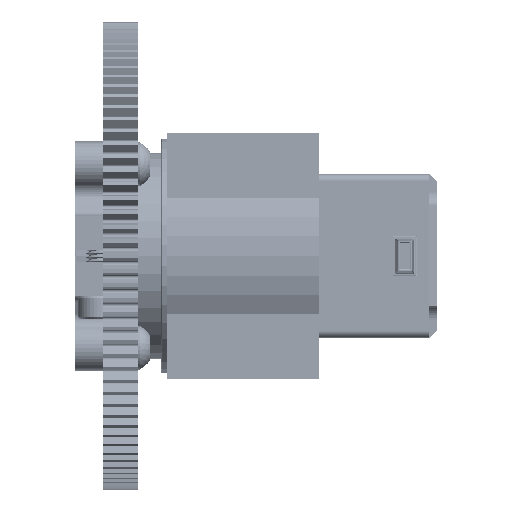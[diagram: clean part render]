
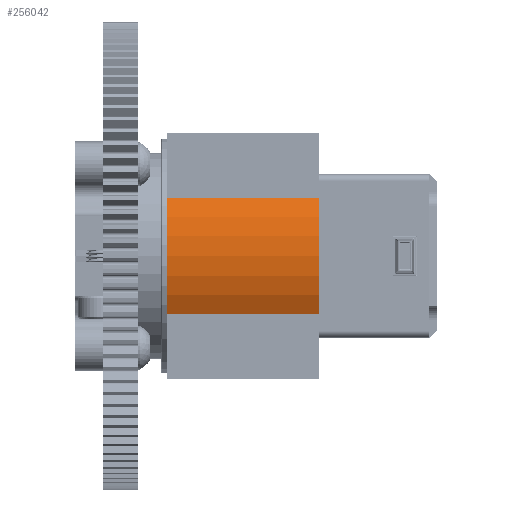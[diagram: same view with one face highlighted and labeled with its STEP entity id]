
A CAD part, left-side view. The second image highlights one B-rep face of the part: STEP entity #256042.
In plain terms, the highlighted cylindrical face has radius 21.5 mm (diameter 43 mm), a partial arc.
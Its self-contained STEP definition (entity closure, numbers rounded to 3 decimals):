
#1270 = LINE ( 'NONE', #213848, #49367 ) ;
#8574 = DIRECTION ( 'NONE',  ( 0., -1., 0. ) ) ;
#35134 = CARTESIAN_POINT ( 'NONE',  ( -19., 45.5, 10.062 ) ) ;
#43013 = CARTESIAN_POINT ( 'NONE',  ( -19.817, 45.5, 8.52 ) ) ;
#48809 = VERTEX_POINT ( 'NONE', #173928 ) ;
#48951 = EDGE_CURVE ( 'NONE', #48809, #253451, #87478, .T. ) ;
#49367 = VECTOR ( 'NONE', #8574, 1000. ) ;
#51185 = ORIENTED_EDGE ( 'NONE', *, *, #219640, .F. ) ;
#58631 = VERTEX_POINT ( 'NONE', #185365 ) ;
#64143 = CARTESIAN_POINT ( 'NONE',  ( -19., 18.9, -10.062 ) ) ;
#67953 = CARTESIAN_POINT ( 'NONE',  ( -21.286, 45.5, -3.49 ) ) ;
#69333 = VERTEX_POINT ( 'NONE', #35134 ) ;
#70679 = VECTOR ( 'NONE', #229951, 1000. ) ;
#87478 = CIRCLE ( 'NONE', #191788, 21.5 ) ;
#92022 = B_SPLINE_CURVE_WITH_KNOTS ( 'NONE', 3,
 ( #167509, #43013, #210469, #252640, #128094, #250877, #67953, #128986, #190779, #191672 ),
 .UNSPECIFIED., .F., .F.,
 ( 4, 2, 2, 2, 4 ),
 ( 0., 0.25, 0.5, 0.75, 1. ),
 .UNSPECIFIED. ) ;
#106507 = DIRECTION ( 'NONE',  ( 0., -1., 0. ) ) ;
#122424 = EDGE_CURVE ( 'NONE', #69333, #48809, #1270, .T. ) ;
#127870 = CARTESIAN_POINT ( 'NONE',  ( -19., 18.9, -10.062 ) ) ;
#128094 = CARTESIAN_POINT ( 'NONE',  ( -21.5, 45.5, 1.745 ) ) ;
#128986 = CARTESIAN_POINT ( 'NONE',  ( -20.445, 45.5, -6.878 ) ) ;
#144770 = ORIENTED_EDGE ( 'NONE', *, *, #122424, .F. ) ;
#156199 = CYLINDRICAL_SURFACE ( 'NONE', #161125, 21.5 ) ;
#161125 = AXIS2_PLACEMENT_3D ( 'NONE', #265442, #203617, #163323 ) ;
#163323 = DIRECTION ( 'NONE',  ( 0., 0., 1. ) ) ;
#167509 = CARTESIAN_POINT ( 'NONE',  ( -19., 45.5, 10.062 ) ) ;
#173928 = CARTESIAN_POINT ( 'NONE',  ( -19., 18.9, 10.062 ) ) ;
#184394 = EDGE_LOOP ( 'NONE', ( #227340, #51185, #213949, #144770 ) ) ;
#185365 = CARTESIAN_POINT ( 'NONE',  ( -19., 45.5, -10.062 ) ) ;
#188059 = CARTESIAN_POINT ( 'NONE',  ( 0., 18.9, 0. ) ) ;
#190779 = CARTESIAN_POINT ( 'NONE',  ( -19.817, 45.5, -8.52 ) ) ;
#191672 = CARTESIAN_POINT ( 'NONE',  ( -19., 45.5, -10.062 ) ) ;
#191788 = AXIS2_PLACEMENT_3D ( 'NONE', #188059, #106507, #250789 ) ;
#203617 = DIRECTION ( 'NONE',  ( 0., 1., 0. ) ) ;
#210469 = CARTESIAN_POINT ( 'NONE',  ( -20.445, 45.5, 6.878 ) ) ;
#213848 = CARTESIAN_POINT ( 'NONE',  ( -19., 45.5, 10.062 ) ) ;
#213949 = ORIENTED_EDGE ( 'NONE', *, *, #48951, .F. ) ;
#218303 = LINE ( 'NONE', #64143, #70679 ) ;
#219640 = EDGE_CURVE ( 'NONE', #253451, #58631, #218303, .T. ) ;
#227340 = ORIENTED_EDGE ( 'NONE', *, *, #250710, .T. ) ;
#229951 = DIRECTION ( 'NONE',  ( 0., 1., 0. ) ) ;
#250710 = EDGE_CURVE ( 'NONE', #69333, #58631, #92022, .T. ) ;
#250789 = DIRECTION ( 'NONE',  ( 0., 0., 1. ) ) ;
#250877 = CARTESIAN_POINT ( 'NONE',  ( -21.5, 45.5, -1.745 ) ) ;
#252640 = CARTESIAN_POINT ( 'NONE',  ( -21.286, 45.5, 3.49 ) ) ;
#253451 = VERTEX_POINT ( 'NONE', #127870 ) ;
#256042 = ADVANCED_FACE ( 'NONE', ( #265184 ), #156199, .T. ) ;
#265184 = FACE_OUTER_BOUND ( 'NONE', #184394, .T. ) ;
#265442 = CARTESIAN_POINT ( 'NONE',  ( 0., 0., 0. ) ) ;
